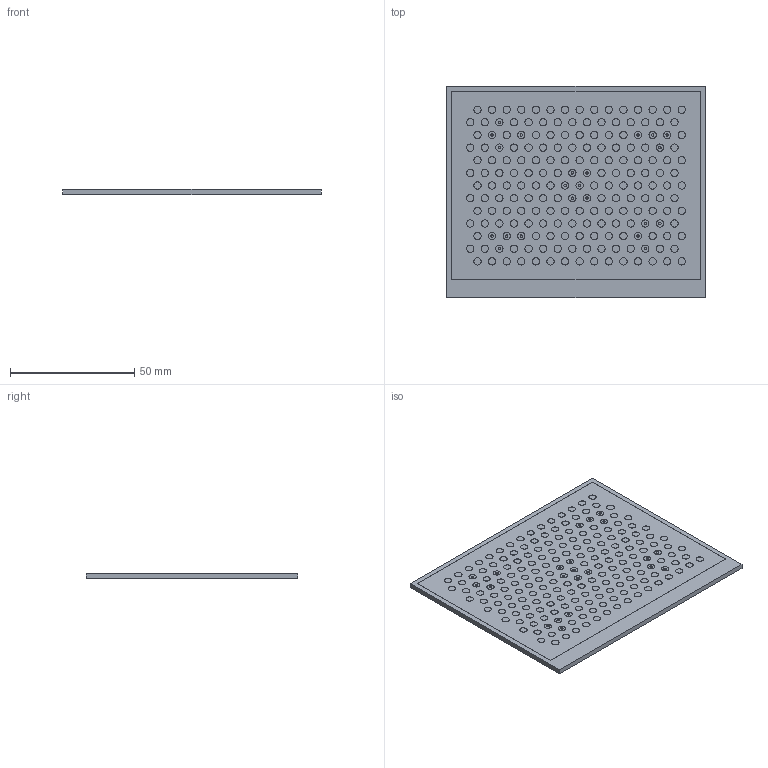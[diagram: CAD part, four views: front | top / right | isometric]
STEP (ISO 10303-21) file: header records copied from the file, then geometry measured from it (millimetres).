
FILE_DESCRIPTION(/* description */ (''),/* implementation_level */ '2;1');
FILE_NAME(/* name */ 'C:\#Vault-WorkDir\Konstruktions-Dokumente\Projekte\VISOR\Katalogzeichnungen\153-13570_ZCP 100-13x15.stp',/* time_stamp */ '2019-03-21T12:03:57+01:00',/* author */ ('SensoPart'),/* organization */ ('SensoPart'),/* preprocessor_version */ 'ST-DEVELOPER v17',/* originating_system */ 'Autodesk Inventor 2018',/* authorisation */ '');
FILE_SCHEMA (('AUTOMOTIVE_DESIGN { 1 0 10303 214 3 1 1 }'));
Length unit declared in the file: millimetre
Products named in the file (1): GH-ENG-0028004
Bounding box: 104 x 85 x 2.05 mm (x, y, z)
Volume: 17993.8 mm3; surface area: 18546.9 mm2
Topology: 1 solids, 1 shells, 445 faces, 675 edges, 450 vertices
Faces by surface type: plane 228, cylinder 217
Full cylindrical faces by diameter (mm): 0.977 x22, 2.937 x195
Entity records: 10353 total; most frequent: DIRECTION 2001, CARTESIAN_POINT 1571, ORIENTED_EDGE 1350, AXIS2_PLACEMENT_3D 880, EDGE_CURVE 675, EDGE_LOOP 663, VERTEX_POINT 450, FACE_OUTER_BOUND 445
